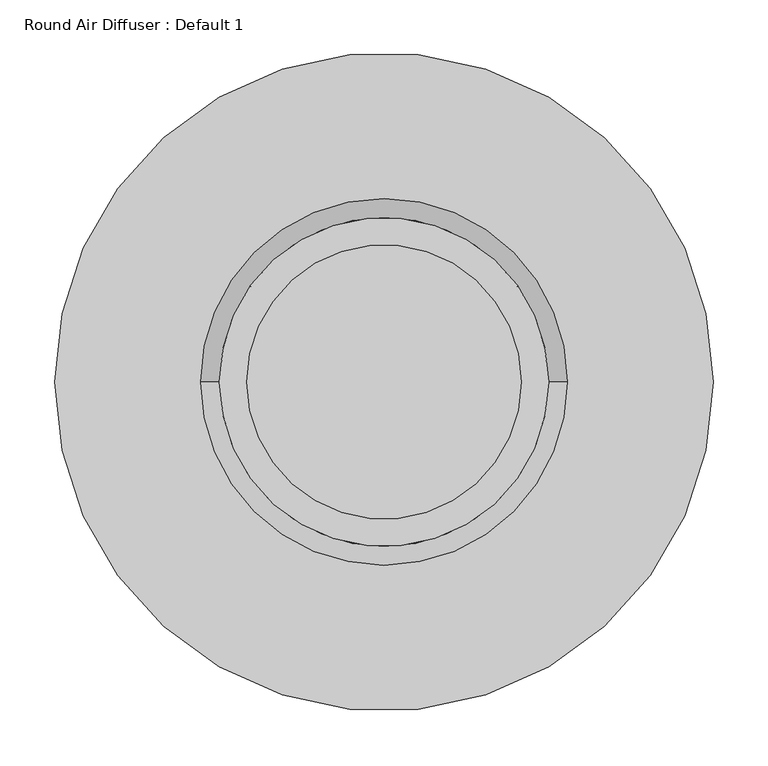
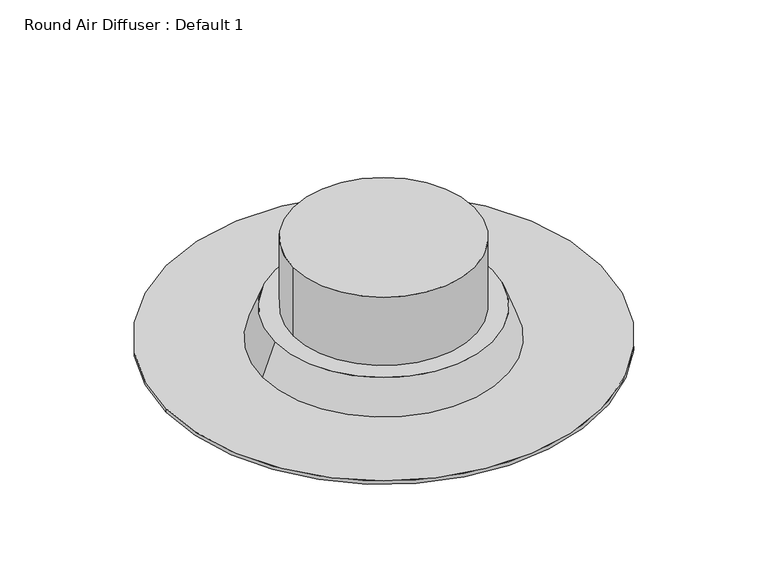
"""IFC4 building model written with IfcOpenShell, lengths in millimetres: proxy geometry, Round Air Diffuser : Default 1."""

from ifc_helpers import new_model, si_unit, point, frame, frame_2d, origin, place, context, project, spatial, polyline, circle_curve, trimmed, segment, composite_curve, outline, extrude, source, transform, mapped, element, save
from ifc_brep_helpers import plane_surface, revolved_surface, advanced_brep


def round_air_diffuser_default_1_b5902af6(model_context):
    return source(origin(), model_context, "Body", "SolidModel", [
        extrude(outline(composite_curve([segment(trimmed(circle_curve(frame_2d((0.0, 132.9353724)), 125.0), [point((-125.0, 132.9353724))], [point((125.0, 132.9353724))], False, "CARTESIAN"), True, "CONTINUOUS"), segment(trimmed(circle_curve(frame_2d((0.0, 132.9353724)), 125.0), [point((125.0, 132.9353724))], [point((-125.0, 132.9353724))], False, "CARTESIAN"), True, "CONTINUOUS")], self_intersect=False)), frame((0.0, 0.0, 2484.4), z_axis=(0.0, 0.0, 1.0), x_axis=(1.0, 0.0, 0.0)), (0.0, 0.0, 1.0), 100.0),
        extrude(outline(composite_curve([segment(trimmed(circle_curve(frame_2d((0.0, 132.9353724)), 166.5), [point((-166.5, 132.9353724))], [point((166.5, 132.9353724))], False, "CARTESIAN"), True, "CONTINUOUS"), segment(trimmed(circle_curve(frame_2d((0.0, 132.9353724)), 166.5), [point((166.5, 132.9353724))], [point((-166.5, 132.9353724))], False, "CARTESIAN"), True, "CONTINUOUS")], self_intersect=False)), frame((0.0, 0.0, 2423.4), z_axis=(0.0, 0.0, 1.0), x_axis=(1.0, 0.0, 0.0)), (0.0, 0.0, 1.0), 5.0),
        advanced_brep(
        [(-150.0, 132.9353724, 2484.4), (150.0, 132.9353724, 2484.4), (-167.0646276, 132.9353724, 2438.4), (167.0646276, 132.9353724, 2438.4)],
        [
            (0, 1, circle_curve(frame((0.0, 132.9353724, 2484.4), z_axis=(0.0, 0.0, 1.0), x_axis=(-1.0, 0.0, 0.0)), 150.0)),
            (1, 0, circle_curve(frame((0.0, 132.9353724, 2484.4), z_axis=(0.0, 0.0, 1.0), x_axis=(1.0, 0.0, 0.0)), 150.0)),
            (2, 3, circle_curve(frame((0.0, 132.9353724, 2438.4), z_axis=(0.0, 0.0, -1.0), x_axis=(1.0, 0.0, 0.0)), 167.0646276)),
            (3, 2, circle_curve(frame((0.0, 132.9353724, 2438.4), z_axis=(0.0, 0.0, -1.0), x_axis=(-1.0, 0.0, 0.0)), 167.0646276)),
            (3, 1),
            (0, 2),
        ],
        [
            plane_surface(frame((0.0, 132.9353724, 2484.4), z_axis=(0.0, 0.0, 1.0), x_axis=(0.0, -1.0, 0.0))),
            plane_surface(frame((0.0, 132.9353724, 2438.4), z_axis=(0.0, 0.0, -1.0), x_axis=(0.0, -1.0, 0.0))),
            revolved_surface(polyline([(-150.00000003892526, 132.9353724, 2484.4), (-167.0646276, 132.9353724, 2438.4)]), (0.0, 132.9353724, 2888.7451858), (0.0, 0.0, -1.0)),
            revolved_surface(polyline([(150.00000003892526, 132.9353724, 2484.4), (167.0646276, 132.9353724, 2438.4)]), (0.0, 132.9353724, 2888.7451858), (0.0, 0.0, -1.0)),
        ],
        [
            (0, [[1, 2]]),
            (1, [[3, 4]]),
            (2, [[-4, 5, -1, 6]]),
            (3, [[-3, -6, -2, -5]]),
        ],
    ),
        extrude(outline(composite_curve([segment(trimmed(circle_curve(frame_2d((0.0, 132.9353724)), 300.0), [point((-300.0, 132.9353724))], [point((300.0, 132.9353724))], False, "CARTESIAN"), True, "CONTINUOUS"), segment(trimmed(circle_curve(frame_2d((0.0, 132.9353724)), 300.0), [point((300.0, 132.9353724))], [point((-300.0, 132.9353724))], False, "CARTESIAN"), True, "CONTINUOUS")], self_intersect=False), holes=[composite_curve([segment(trimmed(circle_curve(frame_2d((0.0, 132.9353724)), 141.6646276), [point((-141.6646276, 132.9353724))], [point((141.6646276, 132.9353724))], True, "CARTESIAN"), True, "CONTINUOUS"), segment(trimmed(circle_curve(frame_2d((0.0, 132.9353724)), 141.6646276), [point((141.6646276, 132.9353724))], [point((-141.6646276, 132.9353724))], True, "CARTESIAN"), True, "CONTINUOUS")], self_intersect=False)]), frame((0.0, 0.0, 2433.4), z_axis=(0.0, 0.0, 1.0), x_axis=(1.0, 0.0, 0.0)), (0.0, 0.0, 1.0), 5.0),
    ])


if __name__ == "__main__":
    model = new_model("IFC4")
    model_context = context("Model", 3, world=origin())
    ifc_project = project(units=[si_unit("LENGTHUNIT", "METRE", prefix="MILLI")], contexts=[model_context])
    site = spatial("IfcSite", under=ifc_project)
    building = spatial("IfcBuilding", under=site)
    placement = place(None, origin())
    round_air_diffuser_default_1_shape = round_air_diffuser_default_1_b5902af6(model_context)
    element("IfcBuildingElementProxy", 1, Name="Round Air Diffuser : Default 1", ObjectType="Round Air Diffuser : Default 1", at=placement, inside=building, context=model_context, shape_type="MappedRepresentation", body=[
        mapped(round_air_diffuser_default_1_shape, transform((0.0, 0.0, 0.0), x_axis=(1.0, 0.0, 0.0), y_axis=(0.0, 1.0, 0.0), z_axis=(0.0, 0.0, 1.0))),
    ])
    save(model, "model.ifc")
